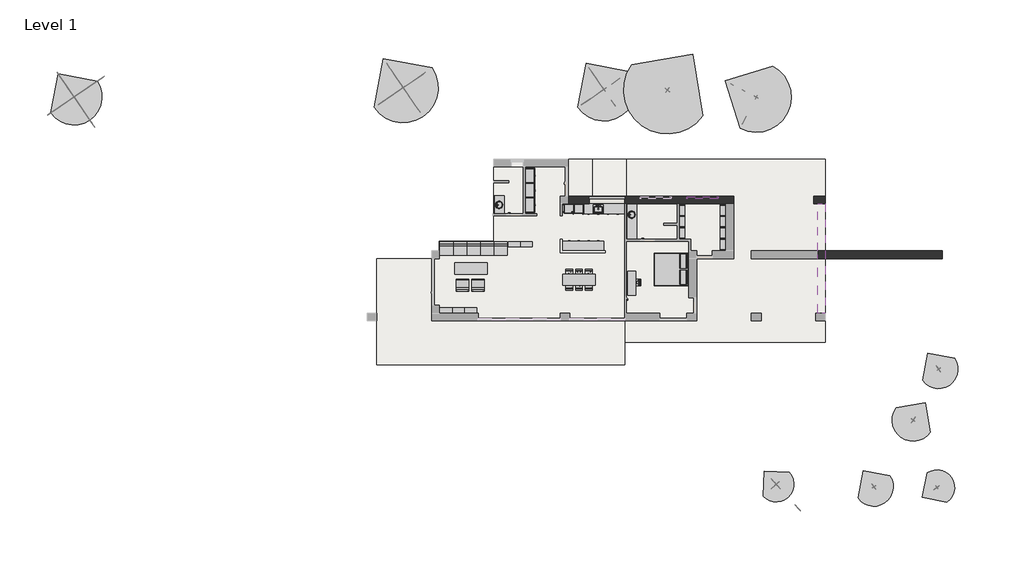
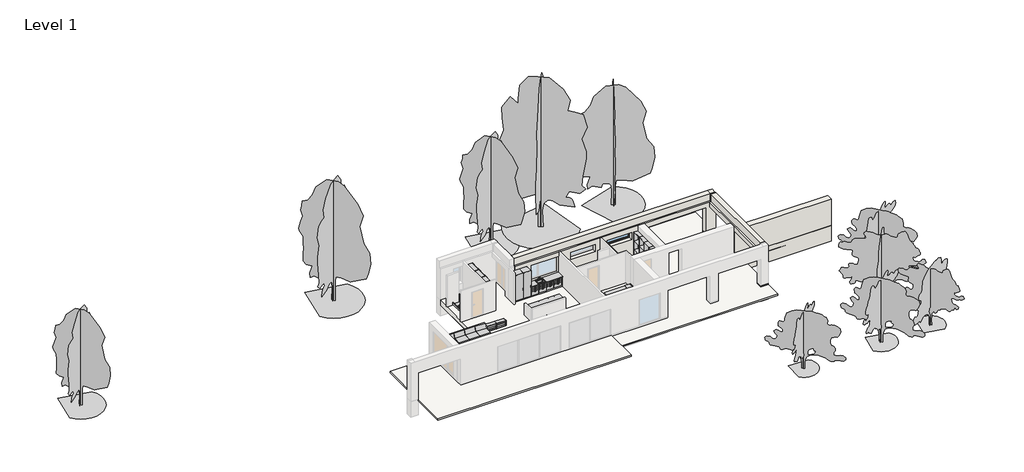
# One storey, part 2 of 2: 53 furniture elements, 10 geographic elements, 7 walls, 4 slabs, 3 flow terminals, 1 window.
"""IFC4 building model written with IfcOpenShell, lengths in millimetres."""

from ifc_helpers import new_model, si_unit, frame, origin, origin_with_axes, place, context, project, spatial, polyline, outline, extrude, faceted_brep, transform, mapped, element, save
from components import sink_kitchen_single_600_x_535mm_f0c6929d, sink_vanity_round_482_x_482mm_621b7b9b, furniture_c7f23c1d, furniture_56f83323, furniture_641ccf10, furniture_1500_x_500mm_231fc5f9, furniture_2000_x_700mm_040c55c5, furniture_2000_x_700mm_sofa_1e09125b, furniture_700_x_300_x_2200mm_207dd1db, furniture_750_x_300_x_450mm_957a72fb, base_cabinet_4_drawers_600_mm_7743cde6, base_cabinet_4_drawers_600_mm_75a3c887, bed_box_2000_x_2100mm_5f007bae, couch_straight_module_couch_straight_module_fcc397ea, counter_top_counter_top_fbe04672, counter_top_w_sink_counter_top_w_sink_1a22a961, front_plain_front_plain_37046411, front_plain_front_plain_e6c80844, front_plain_front_plain_2_fe2e9d0c, plinth_164mm_a440ec44, plinth_164mm_10810e33, tall_cabinet_double_door_900_mm_12ca9f50, tall_cabinet_single_door_600_mm_6a825e10, vanity_counter_top_w_round_sink_hole_600mm_depth_ba51d22c, vanity_counter_top_w_round_sink_hole_600mm_depth_d806985c, rpc_tree_deciduous_hawthorn_5_meters_61e68b76, rpc_tree_deciduous_hawthorn_5_5_meters_b1aece7a, rpc_tree_deciduous_hawthorn_6_meters_b5c31be1, rpc_tree_deciduous_red_ash_10_meters_1bd7eb3f, rpc_tree_deciduous_red_ash_12_5_meters_f1622f8d, rpc_tree_deciduous_red_ash_8_meters_67bd5bca, rpc_tree_deciduous_red_ash_9_meters_4b385689, single_light_top_hinged_1920x600_dd11e4f9

model = new_model("IFC4")

# Units and contexts
model_context = context("Model", 3, world=origin())
ifc_project = project(units=[si_unit("LENGTHUNIT", "METRE", prefix="MILLI")], contexts=[model_context])

# Site, building, storey
site = spatial("IfcSite", under=ifc_project)
building = spatial("IfcBuilding", under=site)
storey = spatial("IfcBuildingStorey", under=building, Name="Level 1", Elevation=0.0)

# Flow terminals
placement = place(None, origin())
sink_kitchen_single_600_x_535mm_shape = sink_kitchen_single_600_x_535mm_f0c6929d(model_context)
element("IfcFlowTerminal", 1, ObjectType="Sink Kitchen-Single : 600 x 535mm", at=placement, inside=storey, context=model_context, shape_type="MappedRepresentation", body=[
    mapped(sink_kitchen_single_600_x_535mm_shape, transform((14204.3107594, 6884.4545989, 0.0), x_axis=(1.0, 0.0, 0.0), y_axis=(0.0, 1.0, 0.0), z_axis=(0.0, 0.0, 1.0))),
])
sink_vanity_round_482_x_482mm_shape = sink_vanity_round_482_x_482mm_621b7b9b(model_context)
element("IfcFlowTerminal", 2, ObjectType="Sink Vanity - Round : 482 x 482mm", at=placement, inside=storey, context=model_context, shape_type="MappedRepresentation", body=[
    mapped(sink_vanity_round_482_x_482mm_shape, transform((16358.3901141, 6444.5531607, 0.0), x_axis=(0.0, 1.0, 0.0), y_axis=(-1.0, 0.0, 0.0), z_axis=(0.0, 0.0, 1.0))),
])
element("IfcFlowTerminal", 3, ObjectType="Sink Vanity - Round : 482 x 482mm", at=placement, inside=storey, context=model_context, shape_type="MappedRepresentation", body=[
    mapped(sink_vanity_round_482_x_482mm_shape, transform((8199.0351087, 7049.1198202, 0.0), x_axis=(0.0, 1.0000000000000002, 0.0), y_axis=(-1.0000000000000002, 0.0, 0.0), z_axis=(0.0, 0.0, 1.0))),
])

# Furniture
furniture_shape = furniture_c7f23c1d(model_context)
element("IfcFurniture", 4, ObjectType="Armchair - Barcelona : Armchair - Barcelona", at=placement, inside=storey, context=model_context, shape_type="MappedRepresentation", body=[
    mapped(furniture_shape, transform((5860.0, 1780.0, 0.0), x_axis=(-1.0000000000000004, 0.0, 0.0), y_axis=(0.0, -1.0000000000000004, 0.0), z_axis=(0.0, 0.0, 1.0))),
])
element("IfcFurniture", 5, ObjectType="Armchair - Barcelona : Armchair - Barcelona", at=placement, inside=storey, context=model_context, shape_type="MappedRepresentation", body=[
    mapped(furniture_shape, transform((6820.0, 1780.0, 0.0), x_axis=(-1.0, 0.0, 0.0), y_axis=(0.0, -1.0, 0.0), z_axis=(0.0, 0.0, 1.0))),
])
furniture_2_shape = furniture_56f83323(model_context)
element("IfcFurniture", 6, ObjectType="Chair - Allround : Chair - allround", at=placement, inside=storey, context=model_context, shape_type="MappedRepresentation", body=[
    mapped(furniture_2_shape, transform((13040.0, 2890.0, 0.0), x_axis=(1.0, 0.0, 0.0), y_axis=(0.0, 1.0, 0.0), z_axis=(0.0, 0.0, 1.0))),
])
element("IfcFurniture", 7, ObjectType="Chair - Allround : Chair - allround", at=placement, inside=storey, context=model_context, shape_type="MappedRepresentation", body=[
    mapped(furniture_2_shape, transform((12440.0, 2890.0, 0.0), x_axis=(1.0, 0.0, 0.0), y_axis=(0.0, 1.0, 0.0), z_axis=(0.0, 0.0, 1.0))),
])
element("IfcFurniture", 8, ObjectType="Chair - Allround : Chair - allround", at=placement, inside=storey, context=model_context, shape_type="MappedRepresentation", body=[
    mapped(furniture_2_shape, transform((13640.0, 2190.0, 0.0), x_axis=(-1.0, 0.0, 0.0), y_axis=(0.0, -1.0, 0.0), z_axis=(0.0, 0.0, 1.0))),
])
element("IfcFurniture", 9, ObjectType="Chair - Allround : Chair - allround", at=placement, inside=storey, context=model_context, shape_type="MappedRepresentation", body=[
    mapped(furniture_2_shape, transform((16525.0, 2370.0, 0.0), x_axis=(0.0, -1.0000000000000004, 0.0), y_axis=(1.0000000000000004, 0.0, 0.0), z_axis=(0.0, 0.0, 1.0))),
])
furniture_3_shape = furniture_641ccf10(model_context)
element("IfcFurniture", 10, ObjectType="Chair - Allround : Chair - allround", at=placement, inside=storey, context=model_context, shape_type="MappedRepresentation", body=[
    mapped(furniture_3_shape, transform((13640.0, 2890.0, 0.0), x_axis=(-1.0, 0.0, 0.0), y_axis=(0.0, -1.0, 0.0), z_axis=(0.0, 0.0, 1.0))),
])
element("IfcFurniture", 11, ObjectType="Chair - Allround : Chair - allround", at=placement, inside=storey, context=model_context, shape_type="MappedRepresentation", body=[
    mapped(furniture_3_shape, transform((13040.0, 2190.0, 0.0), x_axis=(1.0, 0.0, 0.0), y_axis=(0.0, 1.0, 0.0), z_axis=(0.0, 0.0, 1.0))),
])
element("IfcFurniture", 12, ObjectType="Chair - Allround : Chair - allround", at=placement, inside=storey, context=model_context, shape_type="MappedRepresentation", body=[
    mapped(furniture_3_shape, transform((12440.0, 2190.0, 0.0), x_axis=(1.0, 0.0, 0.0), y_axis=(0.0, 1.0, 0.0), z_axis=(0.0, 0.0, 1.0))),
])
furniture_1500_x_500mm_shape = furniture_1500_x_500mm_231fc5f9(model_context)
element("IfcFurniture", 13, ObjectType="Table - Allround : 1500 x 500mm", at=placement, inside=storey, context=model_context, shape_type="MappedRepresentation", body=[
    mapped(furniture_1500_x_500mm_shape, transform((16275.0, 2320.0, 0.0), x_axis=(0.0, 1.0000000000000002, 0.0), y_axis=(-1.0000000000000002, 0.0, 0.0), z_axis=(0.0, 0.0, 1.0))),
])
furniture_2000_x_700mm_shape = furniture_2000_x_700mm_040c55c5(model_context)
element("IfcFurniture", 14, ObjectType="Table - Allround : 2000 x 700mm", at=placement, inside=storey, context=model_context, shape_type="MappedRepresentation", body=[
    mapped(furniture_2000_x_700mm_shape, transform((13040.0, 2540.0, 0.0), x_axis=(1.0, 0.0, 0.0), y_axis=(0.0, 1.0, 0.0), z_axis=(0.0, 0.0, 1.0))),
])
furniture_2000_x_700mm_sofa_shape = furniture_2000_x_700mm_sofa_1e09125b(model_context)
element("IfcFurniture", 15, ObjectType="Table - Allround : 2000 x 700mm Sofa", at=placement, inside=storey, context=model_context, shape_type="MappedRepresentation", body=[
    mapped(furniture_2000_x_700mm_sofa_shape, transform((6380.0, 3240.0, 0.0), x_axis=(1.0, 0.0, 0.0), y_axis=(0.0, 1.0, 0.0), z_axis=(0.0, 0.0, 1.0))),
])
furniture_700_x_300_x_2200mm_shape = furniture_700_x_300_x_2200mm_207dd1db(model_context)
element("IfcFurniture", 16, ObjectType="Shelving (Floor) - Allround : 700 x 300 x 2200mm", at=placement, inside=storey, context=model_context, shape_type="MappedRepresentation", body=[
    mapped(furniture_700_x_300_x_2200mm_shape, transform((19085.2, 6810.0, 0.0), x_axis=(0.0, 1.0000000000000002, 0.0), y_axis=(-1.0000000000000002, 0.0, 0.0), z_axis=(0.0, 0.0, 1.0))),
])
element("IfcFurniture", 17, ObjectType="Shelving (Floor) - Allround : 700 x 300 x 2200mm", at=placement, inside=storey, context=model_context, shape_type="MappedRepresentation", body=[
    mapped(furniture_700_x_300_x_2200mm_shape, transform((19085.2, 6110.0, 0.0), x_axis=(0.0, 1.0000000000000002, 0.0), y_axis=(-1.0000000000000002, 0.0, 0.0), z_axis=(0.0, 0.0, 1.0))),
])
element("IfcFurniture", 18, ObjectType="Shelving (Floor) - Allround : 700 x 300 x 2200mm", at=placement, inside=storey, context=model_context, shape_type="MappedRepresentation", body=[
    mapped(furniture_700_x_300_x_2200mm_shape, transform((19085.2, 5410.0, 0.0), x_axis=(0.0, 1.0000000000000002, 0.0), y_axis=(-1.0000000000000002, 0.0, 0.0), z_axis=(0.0, 0.0, 1.0))),
])
element("IfcFurniture", 19, ObjectType="Shelving (Floor) - Allround : 700 x 300 x 2200mm", at=placement, inside=storey, context=model_context, shape_type="MappedRepresentation", body=[
    mapped(furniture_700_x_300_x_2200mm_shape, transform((21585.2, 6810.0, 0.0), x_axis=(0.0, 1.0000000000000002, 0.0), y_axis=(-1.0000000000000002, 0.0, 0.0), z_axis=(0.0, 0.0, 1.0))),
])
element("IfcFurniture", 20, ObjectType="Shelving (Floor) - Allround : 700 x 300 x 2200mm", at=placement, inside=storey, context=model_context, shape_type="MappedRepresentation", body=[
    mapped(furniture_700_x_300_x_2200mm_shape, transform((21585.2, 6110.0, 0.0), x_axis=(0.0, 1.0000000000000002, 0.0), y_axis=(-1.0000000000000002, 0.0, 0.0), z_axis=(0.0, 0.0, 1.0))),
])
element("IfcFurniture", 21, ObjectType="Shelving (Floor) - Allround : 700 x 300 x 2200mm", at=placement, inside=storey, context=model_context, shape_type="MappedRepresentation", body=[
    mapped(furniture_700_x_300_x_2200mm_shape, transform((21585.2, 5410.0, 0.0), x_axis=(0.0, 1.0000000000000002, 0.0), y_axis=(-1.0000000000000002, 0.0, 0.0), z_axis=(0.0, 0.0, 1.0))),
])
element("IfcFurniture", 22, ObjectType="Shelving (Floor) - Allround : 700 x 300 x 2200mm", at=placement, inside=storey, context=model_context, shape_type="MappedRepresentation", body=[
    mapped(furniture_700_x_300_x_2200mm_shape, transform((21585.2, 4710.0, 0.0), x_axis=(0.0, 1.0000000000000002, 0.0), y_axis=(-1.0000000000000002, 0.0, 0.0), z_axis=(0.0, 0.0, 1.0))),
])
furniture_750_x_300_x_450mm_shape = furniture_750_x_300_x_450mm_957a72fb(model_context)
element("IfcFurniture", 23, ObjectType="Shelving (Floor) - Allround : 750 x 300 x 450mm", at=placement, inside=storey, context=model_context, shape_type="MappedRepresentation", body=[
    mapped(furniture_750_x_300_x_450mm_shape, transform((9045.0, 5034.8, 0.0), x_axis=(1.0, 0.0, 0.0), y_axis=(0.0, 1.0, 0.0), z_axis=(0.0, 0.0, 1.0))),
])
element("IfcFurniture", 24, ObjectType="Shelving (Floor) - Allround : 750 x 300 x 450mm", at=placement, inside=storey, context=model_context, shape_type="MappedRepresentation", body=[
    mapped(furniture_750_x_300_x_450mm_shape, transform((9795.0, 5034.8, 0.0), x_axis=(1.0, 0.0, 0.0), y_axis=(0.0, 1.0, 0.0), z_axis=(0.0, 0.0, 1.0))),
])
element("IfcFurniture", 25, ObjectType="Shelving (Floor) - Allround : 750 x 300 x 450mm", at=placement, inside=storey, context=model_context, shape_type="MappedRepresentation", body=[
    mapped(furniture_750_x_300_x_450mm_shape, transform((4855.0, 974.8, 0.0), x_axis=(1.0, 0.0, 0.0), y_axis=(0.0, 1.0, 0.0), z_axis=(0.0, 0.0, 1.0))),
])
element("IfcFurniture", 26, ObjectType="Shelving (Floor) - Allround : 750 x 300 x 450mm", at=placement, inside=storey, context=model_context, shape_type="MappedRepresentation", body=[
    mapped(furniture_750_x_300_x_450mm_shape, transform((5605.0, 974.8, 0.0), x_axis=(1.0, 0.0, 0.0), y_axis=(0.0, 1.0, 0.0), z_axis=(0.0, 0.0, 1.0))),
])
element("IfcFurniture", 27, ObjectType="Shelving (Floor) - Allround : 750 x 300 x 450mm", at=placement, inside=storey, context=model_context, shape_type="MappedRepresentation", body=[
    mapped(furniture_750_x_300_x_450mm_shape, transform((6355.0, 974.8, 0.0), x_axis=(1.0, 0.0, 0.0), y_axis=(0.0, 1.0, 0.0), z_axis=(0.0, 0.0, 1.0))),
])
base_cabinet_4_drawers_600_mm_shape = base_cabinet_4_drawers_600_mm_7743cde6(model_context)
element("IfcFurniture", 28, ObjectType="Base Cabinet - 4 Drawers : 600 mm", at=placement, inside=storey, context=model_context, shape_type="MappedRepresentation", body=[
    mapped(base_cabinet_4_drawers_600_mm_shape, transform((13575.2996736, 7200.0, 0.0), x_axis=(1.0, 0.0, 0.0), y_axis=(0.0, 1.0, 0.0), z_axis=(0.0, 0.0, 1.0))),
])
element("IfcFurniture", 29, ObjectType="Base Cabinet - 4 Drawers : 600 mm", at=placement, inside=storey, context=model_context, shape_type="MappedRepresentation", body=[
    mapped(base_cabinet_4_drawers_600_mm_shape, transform((14775.2996736, 7200.0, 0.0), x_axis=(1.0, 0.0, 0.0), y_axis=(0.0, 1.0, 0.0), z_axis=(0.0, 0.0, 1.0))),
])
element("IfcFurniture", 30, ObjectType="Base Cabinet - 4 Drawers : 600 mm", at=placement, inside=storey, context=model_context, shape_type="MappedRepresentation", body=[
    mapped(base_cabinet_4_drawers_600_mm_shape, transform((15375.2996736, 7200.0, 0.0), x_axis=(1.0, 0.0, 0.0), y_axis=(0.0, 1.0, 0.0), z_axis=(0.0, 0.0, 1.0))),
])
element("IfcFurniture", 31, ObjectType="Base Cabinet - 4 Drawers : 600 mm", at=placement, inside=storey, context=model_context, shape_type="MappedRepresentation", body=[
    mapped(base_cabinet_4_drawers_600_mm_shape, transform((12464.7003264, 4320.0, 0.0), x_axis=(-1.0, 0.0, 0.0), y_axis=(0.0, -1.0, 0.0), z_axis=(0.0, 0.0, 1.0))),
])
element("IfcFurniture", 32, ObjectType="Base Cabinet - 4 Drawers : 600 mm", at=placement, inside=storey, context=model_context, shape_type="MappedRepresentation", body=[
    mapped(base_cabinet_4_drawers_600_mm_shape, transform((13064.7003264, 4320.0, 0.0), x_axis=(-1.0, 0.0, 0.0), y_axis=(0.0, -1.0, 0.0), z_axis=(0.0, 0.0, 1.0))),
])
element("IfcFurniture", 33, ObjectType="Base Cabinet - 4 Drawers : 600 mm", at=placement, inside=storey, context=model_context, shape_type="MappedRepresentation", body=[
    mapped(base_cabinet_4_drawers_600_mm_shape, transform((13664.7003264, 4320.0, 0.0), x_axis=(-1.0, 0.0, 0.0), y_axis=(0.0, -1.0, 0.0), z_axis=(0.0, 0.0, 1.0))),
])
element("IfcFurniture", 34, ObjectType="Base Cabinet - 4 Drawers : 600 mm", at=placement, inside=storey, context=model_context, shape_type="MappedRepresentation", body=[
    mapped(base_cabinet_4_drawers_600_mm_shape, transform((14264.7003264, 4320.0, 0.0), x_axis=(-1.0, 0.0, 0.0), y_axis=(0.0, -1.0, 0.0), z_axis=(0.0, 0.0, 1.0))),
])
base_cabinet_4_drawers_600_mm_2_shape = base_cabinet_4_drawers_600_mm_75a3c887(model_context)
element("IfcFurniture", 35, ObjectType="Base Cabinet - 4 Drawers : 600 mm", at=placement, inside=storey, context=model_context, shape_type="MappedRepresentation", body=[
    mapped(base_cabinet_4_drawers_600_mm_2_shape, transform((14175.2996736, 7200.0, 0.0), x_axis=(1.0, 0.0, 0.0), y_axis=(0.0, 1.0, 0.0), z_axis=(0.0, 0.0, 1.0))),
])
bed_box_2000_x_2100mm_shape = bed_box_2000_x_2100mm_5f007bae(model_context)
element("IfcFurniture", 36, ObjectType="Bed - Box : 2000 x 2100mm", at=placement, inside=storey, context=model_context, shape_type="MappedRepresentation", body=[
    mapped(bed_box_2000_x_2100mm_shape, transform((18944.4295082, 3509.152459, 0.0), x_axis=(0.0, -1.0, 0.0), y_axis=(1.0, 0.0, 0.0), z_axis=(0.0, 0.0, 1.0))),
])
couch_straight_module_couch_straight_module_shape = couch_straight_module_couch_straight_module_fcc397ea(model_context)
element("IfcFurniture", 37, ObjectType="Couch - Straight Module : Couch straight module", at=placement, inside=storey, context=model_context, shape_type="MappedRepresentation", body=[
    mapped(couch_straight_module_couch_straight_module_shape, transform((4480.0, 4050.0, 0.0), x_axis=(1.0, 0.0, 0.0), y_axis=(0.0, 1.0, 0.0), z_axis=(0.0, 0.0, 1.0))),
])
element("IfcFurniture", 38, ObjectType="Couch - Straight Module : Couch straight module", at=placement, inside=storey, context=model_context, shape_type="MappedRepresentation", body=[
    mapped(couch_straight_module_couch_straight_module_shape, transform((5310.0, 4050.0, 0.0), x_axis=(1.0, 0.0, 0.0), y_axis=(0.0, 1.0, 0.0), z_axis=(0.0, 0.0, 1.0))),
])
element("IfcFurniture", 39, ObjectType="Couch - Straight Module : Couch straight module", at=placement, inside=storey, context=model_context, shape_type="MappedRepresentation", body=[
    mapped(couch_straight_module_couch_straight_module_shape, transform((6140.0, 4050.0, 0.0), x_axis=(1.0, 0.0, 0.0), y_axis=(0.0, 1.0, 0.0), z_axis=(0.0, 0.0, 1.0))),
])
element("IfcFurniture", 40, ObjectType="Couch - Straight Module : Couch straight module", at=placement, inside=storey, context=model_context, shape_type="MappedRepresentation", body=[
    mapped(couch_straight_module_couch_straight_module_shape, transform((6970.0, 4050.0, 0.0), x_axis=(1.0, 0.0, 0.0), y_axis=(0.0, 1.0, 0.0), z_axis=(0.0, 0.0, 1.0))),
])
element("IfcFurniture", 41, ObjectType="Couch - Straight Module : Couch straight module", at=placement, inside=storey, context=model_context, shape_type="MappedRepresentation", body=[
    mapped(couch_straight_module_couch_straight_module_shape, transform((7800.0, 4050.0, 0.0), x_axis=(1.0, 0.0, 0.0), y_axis=(0.0, 1.0, 0.0), z_axis=(0.0, 0.0, 1.0))),
])
counter_top_counter_top_shape = counter_top_counter_top_fbe04672(model_context)
element("IfcFurniture", 42, ObjectType="Counter Top : Counter Top", at=placement, inside=storey, context=model_context, shape_type="MappedRepresentation", body=[
    mapped(counter_top_counter_top_shape, transform((12555.2996736, 4920.0, 0.0), x_axis=(1.0, 0.0, 0.0), y_axis=(0.0, 1.0, 0.0), z_axis=(0.0, 0.0, 1.0))),
])
counter_top_w_sink_counter_top_w_sink_shape = counter_top_w_sink_counter_top_w_sink_1a22a961(model_context)
element("IfcFurniture", 43, ObjectType="Counter Top w Sink : Counter Top w Sink", at=placement, inside=storey, context=model_context, shape_type="MappedRepresentation", body=[
    mapped(counter_top_w_sink_counter_top_w_sink_shape, transform((13875.2996736, 7200.0, 0.0), x_axis=(1.0, 0.0, 0.0), y_axis=(0.0, 1.0, 0.0), z_axis=(0.0, 0.0, 1.0))),
])
front_plain_front_plain_shape = front_plain_front_plain_37046411(model_context)
element("IfcFurniture", 44, ObjectType="Front - Plain : Front - Plain", at=placement, inside=storey, context=model_context, shape_type="MappedRepresentation", body=[
    mapped(front_plain_front_plain_shape, transform((15783.0, 6711.0, 161.0), x_axis=(1.0, 0.0, 0.0), y_axis=(0.0, 1.0, 0.0), z_axis=(0.0, 0.0, 1.0))),
])
element("IfcFurniture", 45, ObjectType="Front - Plain : Front - Plain", at=placement, inside=storey, context=model_context, shape_type="MappedRepresentation", body=[
    mapped(front_plain_front_plain_shape, transform((12057.0, 4809.0, 161.0), x_axis=(-1.0, 0.0, 0.0), y_axis=(0.0, -1.0, 0.0), z_axis=(0.0, 0.0, 1.0))),
])
front_plain_front_plain_2_shape = front_plain_front_plain_e6c80844(model_context)
element("IfcFurniture", 46, ObjectType="Front - Plain : Front - Plain", at=placement, inside=storey, context=model_context, shape_type="MappedRepresentation", body=[
    mapped(front_plain_front_plain_2_shape, transform((12657.0, 6711.0, 161.0), x_axis=(-1.0, 0.0, 0.0), y_axis=(0.0, -1.0, 0.0), z_axis=(0.0, 0.0, 1.0))),
])
front_plain_front_plain_2_2_shape = front_plain_front_plain_2_fe2e9d0c(model_context)
element("IfcFurniture", 47, ObjectType="Front - Plain : Front - Plain 2", at=placement, inside=storey, context=model_context, shape_type="MappedRepresentation", body=[
    mapped(front_plain_front_plain_2_2_shape, transform((12057.0, 6711.0, 161.0), x_axis=(-1.0, 0.0, 0.0), y_axis=(0.0, -1.0, 0.0), z_axis=(0.0, 0.0, 1.0))),
])
plinth_164mm_shape = plinth_164mm_a440ec44(model_context)
element("IfcFurniture", 48, ObjectType="Plinth : 164mm", at=placement, inside=storey, context=model_context, shape_type="MappedRepresentation", body=[
    mapped(plinth_164mm_shape, transform((13875.2996736, 7200.0, 0.0), x_axis=(1.0, 0.0, 0.0), y_axis=(0.0, 1.0, 0.0), z_axis=(0.0, 0.0, 1.0))),
])
plinth_164mm_2_shape = plinth_164mm_10810e33(model_context)
element("IfcFurniture", 49, ObjectType="Plinth : 164mm", at=placement, inside=storey, context=model_context, shape_type="MappedRepresentation", body=[
    mapped(plinth_164mm_2_shape, transform((13304.7003264, 4320.0, 0.0), x_axis=(-1.0000000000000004, 0.0, 0.0), y_axis=(0.0, -1.0000000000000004, 0.0), z_axis=(0.0, 0.0, 1.0))),
])
tall_cabinet_double_door_900_mm_shape = tall_cabinet_double_door_900_mm_12ca9f50(model_context)
element("IfcFurniture", 50, ObjectType="Tall Cabinet - Double door : 900 mm", at=placement, inside=storey, context=model_context, shape_type="MappedRepresentation", body=[
    mapped(tall_cabinet_double_door_900_mm_shape, transform((9720.0, 8895.2996736, 0.0), x_axis=(0.0, 1.0000000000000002, 0.0), y_axis=(-1.0000000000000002, 0.0, 0.0), z_axis=(0.0, 0.0, 1.0))),
])
element("IfcFurniture", 51, ObjectType="Tall Cabinet - Double door : 900 mm", at=placement, inside=storey, context=model_context, shape_type="MappedRepresentation", body=[
    mapped(tall_cabinet_double_door_900_mm_shape, transform((9720.0, 7995.2996736, 0.0), x_axis=(0.0, 1.0000000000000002, 0.0), y_axis=(-1.0000000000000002, 0.0, 0.0), z_axis=(0.0, 0.0, 1.0))),
])
element("IfcFurniture", 52, ObjectType="Tall Cabinet - Double door : 900 mm", at=placement, inside=storey, context=model_context, shape_type="MappedRepresentation", body=[
    mapped(tall_cabinet_double_door_900_mm_shape, transform((9720.0, 7095.2996736, 0.0), x_axis=(0.0, 1.0000000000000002, 0.0), y_axis=(-1.0000000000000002, 0.0, 0.0), z_axis=(0.0, 0.0, 1.0))),
])
tall_cabinet_single_door_600_mm_shape = tall_cabinet_single_door_600_mm_6a825e10(model_context)
element("IfcFurniture", 53, ObjectType="Tall Cabinet - Single door : 600 mm", at=placement, inside=storey, context=model_context, shape_type="MappedRepresentation", body=[
    mapped(tall_cabinet_single_door_600_mm_shape, transform((12375.2996736, 7200.0, 0.0), x_axis=(1.0, 0.0, 0.0), y_axis=(0.0, 1.0, 0.0), z_axis=(0.0, 0.0, 1.0))),
])
element("IfcFurniture", 54, ObjectType="Tall Cabinet - Single door : 600 mm", at=placement, inside=storey, context=model_context, shape_type="MappedRepresentation", body=[
    mapped(tall_cabinet_single_door_600_mm_shape, transform((12975.2996736, 7200.0, 0.0), x_axis=(1.0, 0.0, 0.0), y_axis=(0.0, 1.0, 0.0), z_axis=(0.0, 0.0, 1.0))),
])
vanity_counter_top_w_round_sink_hole_600mm_depth_shape = vanity_counter_top_w_round_sink_hole_600mm_depth_ba51d22c(model_context)
element("IfcFurniture", 55, ObjectType="Vanity Counter Top w. Round Sink Hole : 600mm Depth", at=placement, inside=storey, context=model_context, shape_type="MappedRepresentation", body=[
    mapped(vanity_counter_top_w_round_sink_hole_600mm_depth_shape, transform((15960.0, 6367.4622951, 0.0), x_axis=(0.0, 1.0000000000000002, 0.0), y_axis=(-1.0000000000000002, 0.0, 0.0), z_axis=(0.0, 0.0, 1.0))),
])
vanity_counter_top_w_round_sink_hole_600mm_depth_2_shape = vanity_counter_top_w_round_sink_hole_600mm_depth_d806985c(model_context)
element("IfcFurniture", 56, ObjectType="Vanity Counter Top w. Round Sink Hole : 600mm Depth", at=placement, inside=storey, context=model_context, shape_type="MappedRepresentation", body=[
    mapped(vanity_counter_top_w_round_sink_hole_600mm_depth_2_shape, transform((7800.0, 7927.4622951, 0.0), x_axis=(0.0, 1.0000000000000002, 0.0), y_axis=(-1.0000000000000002, 0.0, 0.0), z_axis=(0.0, 0.0, 1.0))),
])

# Geographic elements
rpc_tree_deciduous_hawthorn_5_meters_shape = rpc_tree_deciduous_hawthorn_5_meters_61e68b76(model_context)
element("IfcGeographicElement", 57, ObjectType="RPC Tree - Deciduous : Hawthorn - 5 Meters", at=placement, inside=storey, context=model_context, shape_type="MappedRepresentation", body=[
    mapped(rpc_tree_deciduous_hawthorn_5_meters_shape, transform((25174.4098385, -10054.2238403, 65.3232456), x_axis=(0.7380247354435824, 0.6747736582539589, 0.0), y_axis=(-0.6747736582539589, 0.7380247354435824, 0.0), z_axis=(0.0, 0.0, 1.0))),
])
element("IfcGeographicElement", 58, ObjectType="RPC Tree - Deciduous : Hawthorn - 5 Meters", at=placement, inside=storey, context=model_context, shape_type="MappedRepresentation", body=[
    mapped(rpc_tree_deciduous_hawthorn_5_meters_shape, transform((35072.9478337, -10251.5701261, 356.1335034), x_axis=(-0.5654936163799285, 0.8247526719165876, 0.0), y_axis=(-0.8247526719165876, -0.5654936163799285, 0.0), z_axis=(0.0, 0.0, 1.0))),
])
rpc_tree_deciduous_hawthorn_5_5_meters_shape = rpc_tree_deciduous_hawthorn_5_5_meters_b1aece7a(model_context)
element("IfcGeographicElement", 59, ObjectType="RPC Tree - Deciduous : Hawthorn - 5.5 Meters", at=placement, inside=storey, context=model_context, shape_type="MappedRepresentation", body=[
    mapped(rpc_tree_deciduous_hawthorn_5_5_meters_shape, transform((35173.9484815, -2971.784643, 229.2358215), x_axis=(0.8247526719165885, 0.5654936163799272, 0.0), y_axis=(-0.5654936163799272, 0.8247526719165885, 0.0), z_axis=(0.0, 0.0, 1.0))),
])
element("IfcGeographicElement", 60, ObjectType="RPC Tree - Deciduous : Hawthorn - 5.5 Meters", at=placement, inside=storey, context=model_context, shape_type="MappedRepresentation", body=[
    mapped(rpc_tree_deciduous_hawthorn_5_5_meters_shape, transform((31193.1354298, -10213.4163535, 272.6295557), x_axis=(0.8247526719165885, 0.5654936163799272, 0.0), y_axis=(-0.5654936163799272, 0.8247526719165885, 0.0), z_axis=(0.0, 0.0, 1.0))),
])
rpc_tree_deciduous_hawthorn_6_meters_shape = rpc_tree_deciduous_hawthorn_6_meters_b5c31be1(model_context)
element("IfcGeographicElement", 61, ObjectType="RPC Tree - Deciduous : Hawthorn - 6 Meters", at=placement, inside=storey, context=model_context, shape_type="MappedRepresentation", body=[
    mapped(rpc_tree_deciduous_hawthorn_6_meters_shape, transform((33608.7897991, -6102.3242609, 246.2057101), x_axis=(-0.813472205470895, 0.5816037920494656, 0.0), y_axis=(-0.5816037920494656, -0.813472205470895, 0.0), z_axis=(0.0, 0.0, 1.0))),
])
rpc_tree_deciduous_red_ash_10_meters_shape = rpc_tree_deciduous_red_ash_10_meters_1bd7eb3f(model_context)
element("IfcGeographicElement", 62, ObjectType="RPC Tree - Deciduous : Red Ash - 10 Meters", at=placement, inside=storey, context=model_context, shape_type="MappedRepresentation", body=[
    mapped(rpc_tree_deciduous_red_ash_10_meters_shape, transform((2210.6422543, 14362.8043442, -1023.3931223), x_axis=(0.8247526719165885, 0.5654936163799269, 0.0), y_axis=(-0.5654936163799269, 0.8247526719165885, 0.0), z_axis=(0.0, 0.0, 1.0))),
])
element("IfcGeographicElement", 63, ObjectType="RPC Tree - Deciduous : Red Ash - 10 Meters", at=placement, inside=storey, context=model_context, shape_type="MappedRepresentation", body=[
    mapped(rpc_tree_deciduous_red_ash_10_meters_shape, transform((23952.7724811, 13775.3120371, -292.9953542), x_axis=(0.46273021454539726, 0.8864991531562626, 0.0), y_axis=(-0.8864991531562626, 0.46273021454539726, 0.0), z_axis=(0.0, 0.0, 1.0))),
])
rpc_tree_deciduous_red_ash_12_5_meters_shape = rpc_tree_deciduous_red_ash_12_5_meters_f1622f8d(model_context)
element("IfcGeographicElement", 64, ObjectType="RPC Tree - Deciduous : Red Ash - 12,5 Meters", at=placement, inside=storey, context=model_context, shape_type="MappedRepresentation", body=[
    mapped(rpc_tree_deciduous_red_ash_12_5_meters_shape, transform((18470.2081852, 14212.906303, -480.8946333), x_axis=(-0.813472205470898, 0.5816037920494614, 0.0), y_axis=(-0.5816037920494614, -0.813472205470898, 0.0), z_axis=(0.0, 0.0, 1.0))),
])
rpc_tree_deciduous_red_ash_8_meters_shape = rpc_tree_deciduous_red_ash_8_meters_67bd5bca(model_context)
element("IfcGeographicElement", 65, ObjectType="RPC Tree - Deciduous : Red Ash - 8 Meters", at=placement, inside=storey, context=model_context, shape_type="MappedRepresentation", body=[
    mapped(rpc_tree_deciduous_red_ash_8_meters_shape, transform((-18049.1302183, 13788.3361315, -2292.7486505), x_axis=(0.8247526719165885, 0.5654936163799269, 0.0), y_axis=(-0.5654936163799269, 0.8247526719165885, 0.0), z_axis=(0.0, 0.0, 1.0))),
])
rpc_tree_deciduous_red_ash_9_meters_shape = rpc_tree_deciduous_red_ash_9_meters_4b385689(model_context)
element("IfcGeographicElement", 66, ObjectType="RPC Tree - Deciduous : Red Ash - 9 Meters", at=placement, inside=storey, context=model_context, shape_type="MappedRepresentation", body=[
    mapped(rpc_tree_deciduous_red_ash_9_meters_shape, transform((14570.3967483, 14251.2567445, -596.1511557), x_axis=(0.8247526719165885, 0.5654936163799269, 0.0), y_axis=(-0.5654936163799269, 0.8247526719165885, 0.0), z_axis=(0.0, 0.0, 1.0))),
])

# Slabs
element("IfcSlab", 67, ObjectType="Generic - 400mm (Ground)", at=placement, inside=storey, context=model_context, shape_type="Brep", body=[
    faceted_brep([(12195.0, 9480.0, -400.0), (12195.0, 7680.0, -400.0), (11880.0, 7680.0, -400.0), (11880.0, 7200.0, -400.0), (22080.0, 7200.0, -400.0), (22080.0, 4320.0, -400.0), (21240.0, 4320.0, -400.0), (21240.0, 4005.0, -400.0), (20280.0, 4005.0, -400.0), (20280.0, 4320.0, -400.0), (19800.0, 4320.0, -400.0), (19800.0, 1440.0, -400.0), (20115.0, 1440.0, -400.0), (20115.0, 480.0, -400.0), (19800.0, 480.0, -400.0), (19680.0, 480.0, -400.0), (19680.0, 165.0, -400.0), (18000.0, 165.0, -400.0), (18000.0, 480.0, -400.0), (15840.0, 480.0, -400.0), (15840.0, 165.0, -400.0), (12480.0, 165.0, -400.0), (12480.0, 480.0, -400.0), (11880.0, 480.0, -400.0), (11880.0, 165.0, -400.0), (6840.0, 165.0, -400.0), (6840.0, 480.0, -400.0), (4440.0, 480.0, -400.0), (4440.0, 960.0, -400.0), (4125.0, 960.0, -400.0), (4125.0, 3840.0, -400.0), (4440.0, 3840.0, -400.0), (4440.0, 4920.0, -400.0), (7800.0, 4920.0, -400.0), (7800.0, 9480.0, -400.0), (11880.0, 9480.0, -400.0), (12195.0, 9480.0, 0.0), (7800.0, 9480.0, 0.0), (7800.0, 4920.0, 0.0), (4440.0, 4920.0, 0.0), (4440.0, 3840.0, 0.0), (4125.0, 3840.0, 0.0), (4125.0, 960.0, 0.0), (4440.0, 960.0, 0.0), (4440.0, 480.0, 0.0), (6840.0, 480.0, 0.0), (6840.0, 165.0, 0.0), (11880.0, 165.0, 0.0), (11880.0, 480.0, 0.0), (12480.0, 480.0, 0.0), (12480.0, 165.0, 0.0), (15840.0, 165.0, 0.0), (15840.0, 480.0, 0.0), (18000.0, 480.0, 0.0), (18000.0, 165.0, 0.0), (19680.0, 165.0, 0.0), (19680.0, 480.0, 0.0), (19800.0, 480.0, 0.0), (20115.0, 480.0, 0.0), (20115.0, 1440.0, 0.0), (19800.0, 1440.0, 0.0), (19800.0, 3840.0, 0.0), (19800.0, 4320.0, 0.0), (20280.0, 4320.0, 0.0), (20280.0, 4005.0, 0.0), (21240.0, 4005.0, 0.0), (21240.0, 4320.0, 0.0), (22080.0, 4320.0, 0.0), (22080.0, 7200.0, 0.0), (12360.0, 7200.0, 0.0), (11880.0, 7200.0, 0.0), (11880.0, 7680.0, 0.0), (12195.0, 7680.0, 0.0)], [[[0, 1, 2, 3, 4, 5, 6, 7, 8, 9, 10, 11, 12, 13, 14, 15, 16, 17, 18, 19, 20, 21, 22, 23, 24, 25, 26, 27, 28, 29, 30, 31, 32, 33, 34, 35]], [[36, 37, 38, 39, 40, 41, 42, 43, 44, 45, 46, 47, 48, 49, 50, 51, 52, 53, 54, 55, 56, 57, 58, 59, 60, 61, 62, 63, 64, 65, 66, 67, 68, 69, 70, 71, 72]], [[1, 0, 36, 72]], [[2, 1, 72, 71]], [[3, 2, 71, 70]], [[4, 3, 70, 69, 68]], [[5, 4, 68, 67]], [[6, 5, 67, 66]], [[7, 6, 66, 65]], [[8, 7, 65, 64]], [[9, 8, 64, 63]], [[10, 9, 63, 62]], [[11, 10, 62, 61, 60]], [[12, 11, 60, 59]], [[13, 12, 59, 58]], [[15, 14, 13, 58, 57, 56]], [[16, 15, 56, 55]], [[17, 16, 55, 54]], [[18, 17, 54, 53]], [[19, 18, 53, 52]], [[20, 19, 52, 51]], [[21, 20, 51, 50]], [[22, 21, 50, 49]], [[23, 22, 49, 48]], [[24, 23, 48, 47]], [[25, 24, 47, 46]], [[26, 25, 46, 45]], [[27, 26, 45, 44]], [[28, 27, 44, 43]], [[29, 28, 43, 42]], [[30, 29, 42, 41]], [[31, 30, 41, 40]], [[32, 31, 40, 39]], [[33, 32, 39, 38]], [[34, 33, 38, 37]], [[0, 35, 34, 37, 36]]]),
])
element("IfcSlab", 68, ObjectType="Generic - Concrete 100mm (Exterior)", at=placement, inside=storey, context=model_context, shape_type="Brep", body=[
    faceted_brep([(28200.0, 9960.0, -200.0), (28200.0, 7680.0, -200.0), (28200.0, 7200.0, -200.0), (28200.0, 4320.0, -200.0), (23640.0, 4320.0, -200.0), (23640.0, 3840.0, -200.0), (28200.0, 3840.0, -200.0), (28200.0, 480.0, -200.0), (28200.0, 0.0, -200.0), (28200.0, -1300.0, -200.0), (15840.0, -1300.0, -200.0), (15840.0, 0.0, -200.0), (20280.0, 0.0, -200.0), (20280.0, 3840.0, -200.0), (22560.0, 3840.0, -200.0), (22560.0, 7680.0, -200.0), (12360.0, 7680.0, -200.0), (12360.0, 9960.0, -200.0), (28200.0, 9960.0, -100.0), (28200.0, 7680.0, -100.0), (28200.0, 7200.0, -100.0), (28200.0, 4320.0, -100.0), (23640.0, 4320.0, -100.0), (23640.0, 3840.0, -100.0), (28200.0, 3840.0, -100.0), (28200.0, 480.0, -100.0), (28200.0, 0.0, -100.0), (28200.0, -1300.0, -100.0), (15840.0, -1300.0, -100.0), (15840.0, 0.0, -100.0), (20280.0, 0.0, -100.0), (20280.0, 3840.0, -100.0), (22560.0, 3840.0, -100.0), (22560.0, 7680.0, -100.0), (15960.0, 7680.0, -100.0), (13860.0, 7680.0, 0.0), (12360.0, 7680.0, 0.0), (12360.0, 9960.0, 0.0), (13860.0, 9960.0, 0.0), (15960.0, 9960.0, -100.0)], [[[0, 1, 2, 3, 4, 5, 6, 7, 8, 9, 10, 11, 12, 13, 14, 15, 16, 17]], [[3, 2, 1, 0, 18, 19, 20, 21]], [[4, 3, 21, 22]], [[5, 4, 22, 23]], [[6, 5, 23, 24]], [[8, 7, 6, 24, 25, 26]], [[9, 8, 26, 27]], [[10, 9, 27, 28]], [[11, 10, 28, 29]], [[12, 11, 29, 30]], [[13, 12, 30, 31]], [[14, 13, 31, 32]], [[15, 14, 32, 33]], [[16, 15, 33, 34, 35, 36]], [[17, 16, 36, 37]], [[0, 17, 37, 38, 39, 18]], [[37, 36, 35, 38]], [[38, 35, 34, 39]], [[33, 32, 31, 30, 29, 28, 27, 26, 25, 24, 23, 22, 21, 20, 19, 18, 39, 34]]]),
])
element("IfcSlab", 69, ObjectType="Generic - Wood 120mm (Exterior)", at=placement, inside=storey, context=model_context, shape_type="SweptSolid", body=[
    extrude(outline(polyline([(3960.0, 3840.0), (3960.0, 0.0), (15840.0, 0.0), (15840.0, -2700.0), (600.0, -2700.0), (600.0, 3840.0), (3960.0, 3840.0)])), frame((0.0, 0.0, -120.0), z_axis=(0.0, 0.0, 1.0), x_axis=(1.0, 0.0, 0.0)), (0.0, 0.0, 1.0), 120.0),
])
element("IfcSlab", 70, ObjectType="Generic Pad - 2mm", at=placement, inside=storey, context=model_context, shape_type="SweptSolid", body=[
    extrude(outline(polyline([(12360.0, 9960.0), (12360.0, 7680.0), (28200.0, 7680.0), (28200.0, 4320.0), (35400.0, 4320.0), (35400.0, 3840.0), (28200.0, 3840.0), (28200.0, 0.0), (3960.0, 0.0), (3960.0, 3840.0), (4440.0, 3840.0), (4440.0, 4920.0), (7800.0, 4920.0), (7800.0, 9960.0), (12360.0, 9960.0)])), frame((0.0, 0.0, -400.0), z_axis=(0.0, 0.0, 1.0), x_axis=(1.0, 0.0, 0.0)), (0.0, 0.0, 1.0), 2.0),
])

# Walls
element("IfcWall", 71, ObjectType="Generic - 480mm (Exterior)", at=placement, inside=storey, context=model_context, shape_type="Brep", body=[
    faceted_brep([(12360.0, 7200.0, 0.0), (15840.0, 7200.0, 0.0), (15960.0, 7200.0, 0.0), (19080.0, 7200.0, 0.0), (19200.0, 7200.0, 0.0), (22080.0, 7200.0, 0.0), (22560.0, 7200.0, 0.0), (22560.0, 7200.0, 2200.0), (27480.0, 7200.0, 2200.0), (27480.0, 7200.0, 0.0), (28200.0, 7200.0, 0.0), (28200.0, 7200.0, 2200.0), (28200.0, 7200.0, 3200.0), (27840.0, 7200.0, 3200.0), (27840.0, 7200.0, 2600.0), (27720.0, 7200.0, 2600.0), (22560.0, 7200.0, 2600.0), (22080.0, 7200.0, 2600.0), (19200.0, 7200.0, 2600.0), (19080.0, 7200.0, 2600.0), (15960.0, 7200.0, 2600.0), (15840.0, 7200.0, 2600.0), (12360.0, 7200.0, 2600.0), (19680.0, 7200.0, 1600.0), (19680.0, 7200.0, 2200.0), (21600.0, 7200.0, 2200.0), (21600.0, 7200.0, 1600.0), (16800.0, 7200.0, 1600.0), (16800.0, 7200.0, 2200.0), (18720.0, 7200.0, 2200.0), (18720.0, 7200.0, 1600.0), (15840.0, 7200.0, 800.0), (13680.0, 7200.0, 800.0), (13680.0, 7200.0, 2200.0), (15840.0, 7200.0, 2200.0), (12360.0, 7680.0, 0.0), (12360.0, 7680.0, 2200.0), (12360.0, 7680.0, 3200.0), (27840.0, 7680.0, 3200.0), (28200.0, 7680.0, 3200.0), (28200.0, 7680.0, 0.0), (27480.0, 7680.0, 0.0), (27480.0, 7680.0, 2200.0), (22560.0, 7680.0, 2200.0), (22560.0, 7680.0, 0.0), (19680.0, 7680.0, 1600.0), (21600.0, 7680.0, 1600.0), (21600.0, 7680.0, 2200.0), (19680.0, 7680.0, 2200.0), (16800.0, 7680.0, 1600.0), (18720.0, 7680.0, 1600.0), (18720.0, 7680.0, 2200.0), (16800.0, 7680.0, 2200.0), (15840.0, 7680.0, 800.0), (15840.0, 7680.0, 2200.0), (13680.0, 7680.0, 2200.0), (13680.0, 7680.0, 800.0), (28200.0, 7320.0, 3200.0), (12360.0, 7320.0, 2600.0), (12360.0, 7320.0, 3200.0), (27840.0, 7320.0, 3200.0), (27840.0, 7320.0, 2600.0)], [[[0, 1, 2, 3, 4, 5, 6, 7, 8, 9, 10, 11, 12, 13, 14, 15, 16, 17, 18, 19, 20, 21, 22], [23, 24, 25, 26], [27, 28, 29, 30], [31, 32, 33, 34]], [[35, 36, 37, 38, 39, 40, 41, 42, 43, 44], [45, 46, 47, 48], [49, 50, 51, 52], [53, 54, 55, 56]], [[12, 11, 10, 40, 39, 57]], [[24, 23, 45, 48]], [[25, 24, 48, 47]], [[26, 25, 47, 46]], [[23, 26, 46, 45]], [[28, 27, 49, 52]], [[29, 28, 52, 51]], [[30, 29, 51, 50]], [[27, 30, 50, 49]], [[54, 53, 31, 34]], [[55, 54, 34, 33]], [[56, 55, 33, 32]], [[53, 56, 32, 31]], [[6, 5, 4, 3, 2, 1, 0, 35, 44]], [[8, 7, 43, 42]], [[9, 8, 42, 41]], [[10, 9, 41, 40]], [[7, 6, 44, 43]], [[0, 22, 58, 59, 37, 36, 35]], [[60, 59, 58, 61]], [[13, 12, 57, 60]], [[13, 60, 61, 14]], [[38, 37, 59, 60]], [[57, 39, 38, 60]], [[22, 21, 20, 19, 18, 17, 16, 15, 14, 61, 58]]]),
])
element("IfcWall", 72, ObjectType="Generic - 480mm (Exterior)", at=placement, inside=storey, context=model_context, shape_type="Brep", body=[
    faceted_brep([(27720.0, 7200.0, 2200.0), (27720.0, 480.0, 2200.0), (27720.0, 480.0, 2600.0), (27720.0, 3840.0, 2600.0), (27720.0, 4320.0, 2600.0), (27720.0, 7200.0, 2600.0), (28200.0, 7200.0, 2200.0), (28200.0, 7200.0, 3200.0), (28200.0, 480.0, 3200.0), (28200.0, 480.0, 2200.0), (27840.0, 7200.0, 2600.0), (27840.0, 7200.0, 3200.0), (27840.0, 480.0, 3200.0), (27840.0, 480.0, 2600.0)], [[[0, 1, 2, 3, 4, 5]], [[6, 7, 8, 9]], [[1, 0, 6, 9]], [[0, 5, 10, 11, 7, 6]], [[2, 1, 9, 8, 12, 13]], [[12, 8, 7, 11]], [[12, 11, 10, 13]], [[5, 4, 3, 2, 13, 10]]]),
])
element("IfcWall", 73, ObjectType="Generic - 480mm (Exterior)", at=placement, inside=storey, context=model_context, shape_type="SweptSolid", body=[
    extrude(outline(polyline([(27720.0, 4320.0), (35400.0, 4320.0), (35400.0, 3840.0), (27720.0, 3840.0), (27720.0, 4320.0)])), origin_with_axes(), (0.0, 0.0, 1.0), 2200.0),
])
element("IfcWall", 74, ObjectType="Generic - 480mm (Foundation)", at=placement, inside=storey, context=model_context, shape_type="Brep", body=[
    faceted_brep([(22080.0, 7200.0, -1300.0), (22080.0, 4320.0, -1300.0), (22080.0, 3840.0, -1300.0), (22080.0, 3840.0, 0.0), (22080.0, 4320.0, 0.0), (22080.0, 7200.0, 0.0), (22560.0, 7200.0, -1300.0), (22560.0, 7200.0, 0.0), (22560.0, 3840.0, 0.0), (22560.0, 3840.0, -1300.0)], [[[0, 1, 2, 3, 4, 5]], [[6, 7, 8, 9]], [[2, 1, 0, 6, 9]], [[5, 4, 3, 8, 7]], [[0, 5, 7, 6]], [[3, 2, 9, 8]]]),
])
element("IfcWall", 75, ObjectType="Generic - 480mm (Foundation)", at=placement, inside=storey, context=model_context, shape_type="SweptSolid", body=[
    extrude(outline(polyline([(27600.0, 480.0), (28200.0, 480.0), (28200.0, 0.0), (27600.0, 0.0), (27600.0, 480.0)])), frame((0.0, 0.0, -1300.0), z_axis=(0.0, 0.0, 1.0), x_axis=(1.0, 0.0, 0.0)), (0.0, 0.0, 1.0), 1100.0),
    extrude(outline(polyline([(27600.0, 480.0), (28200.0, 480.0), (28200.0, 0.0), (27600.0, 0.0), (27600.0, 480.0)])), frame((0.0, 0.0, -100.0), z_axis=(0.0, 0.0, 1.0), x_axis=(1.0, 0.0, 0.0)), (0.0, 0.0, 1.0), 100.0),
])
element("IfcWall", 76, ObjectType="Generic - 480mm (Foundation)", at=placement, inside=storey, context=model_context, shape_type="SweptSolid", body=[
    extrude(outline(polyline([(23640.0, 4320.0), (35400.0, 4320.0), (35400.0, 3840.0), (23640.0, 3840.0), (23640.0, 4320.0)])), frame((0.0, 0.0, -1300.0), z_axis=(0.0, 0.0, 1.0), x_axis=(1.0, 0.0, 0.0)), (0.0, 0.0, 1.0), 1300.0),
])
element("IfcWall", 77, ObjectType="Generic - 480mm (Foundation)", at=placement, inside=storey, context=model_context, shape_type="SweptSolid", body=[
    extrude(outline(polyline([(28200.0, 7200.0), (27480.0, 7200.0), (27480.0, 7680.0), (28200.0, 7680.0), (28200.0, 7200.0)])), frame((0.0, 0.0, -1300.0), z_axis=(0.0, 0.0, 1.0), x_axis=(1.0, 0.0, 0.0)), (0.0, 0.0, 1.0), 1100.0),
    extrude(outline(polyline([(28200.0, 7200.0), (27480.0, 7200.0), (27480.0, 7680.0), (28200.0, 7680.0), (28200.0, 7200.0)])), frame((0.0, 0.0, -100.0), z_axis=(0.0, 0.0, 1.0), x_axis=(1.0, 0.0, 0.0)), (0.0, 0.0, 1.0), 100.0),
])

# Window
single_light_top_hinged_1920x600_shape = single_light_top_hinged_1920x600_dd11e4f9(model_context)
element("IfcWindow", 78, ObjectType="Single-Light (Top Hinged) : 1920x600", at=placement, inside=storey, context=model_context, shape_type="MappedRepresentation", body=[
    mapped(single_light_top_hinged_1920x600_shape, transform((20640.0, 7440.0, 800.0), x_axis=(1.0, 0.0, 0.0), y_axis=(0.0, 1.0, 0.0), z_axis=(0.0, 0.0, 1.0))),
])

save(model, "model.ifc")
